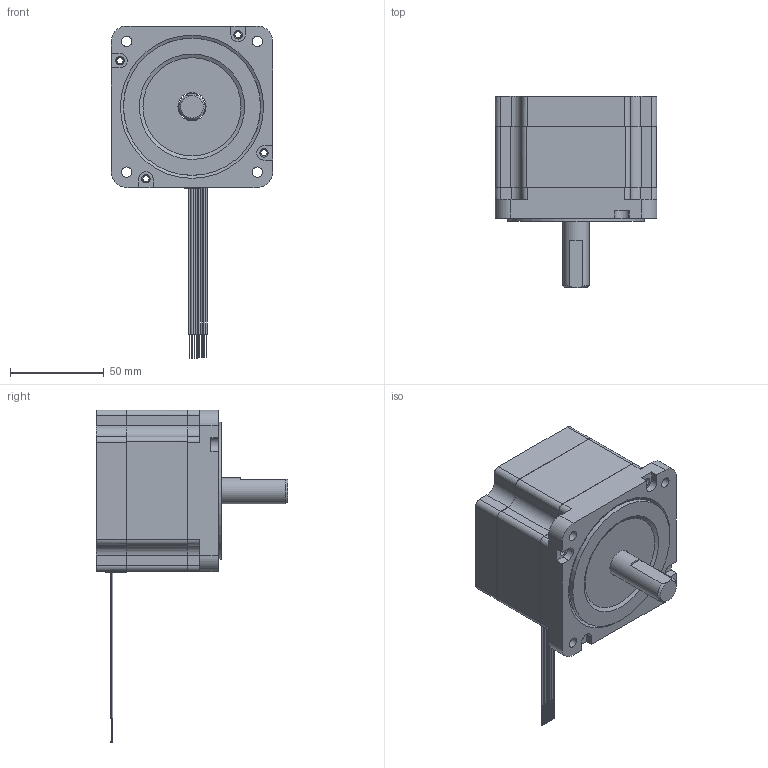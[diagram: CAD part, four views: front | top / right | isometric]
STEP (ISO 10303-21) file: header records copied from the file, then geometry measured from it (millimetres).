
FILE_DESCRIPTION( ('This file contains a STEP AP42 implementation' ,'as created by ZW3D STEP Interface translator.' ,'') ,'2;1' );
FILE_NAME( '34H2060-30-4A-XXX.stp' ,'26 115.141324', (''), ('ZWCAD Software Co.'), 'Version 1.0', 'ZW3D to STEP translator', '' );
FILE_SCHEMA(('AUTOMOTIVE_DESIGN { 1 0 10303 214 1 1 1 1 }'));
Length unit declared in the file: millimetre
Products named in the file (1): 0
Bounding box: 86 x 102 x 176.75 mm (x, y, z)
Volume: 187128.2 mm3; surface area: 80925 mm2
Topology: 7 solids, 7 shells, 305 faces, 745 edges, 489 vertices
Faces by surface type: plane 166, cylinder 135, cone 4
Full cylindrical faces by diameter (mm): 3.3 x4, 4.5 x4, 5.08 x4, 5.5 x4, 14 x2, 15 x2, 36 x1, 42 x2, 52.27 x1, 52.273 x1, 73 x1, 78.679 x1, 80 x2
Entity records: 9413 total; most frequent: DIRECTION 1637, CARTESIAN_POINT 1597, ORIENTED_EDGE 1490, EDGE_CURVE 745, AXIS2_PLACEMENT_3D 609, VERTEX_POINT 489, VECTOR 419, LINE 419
